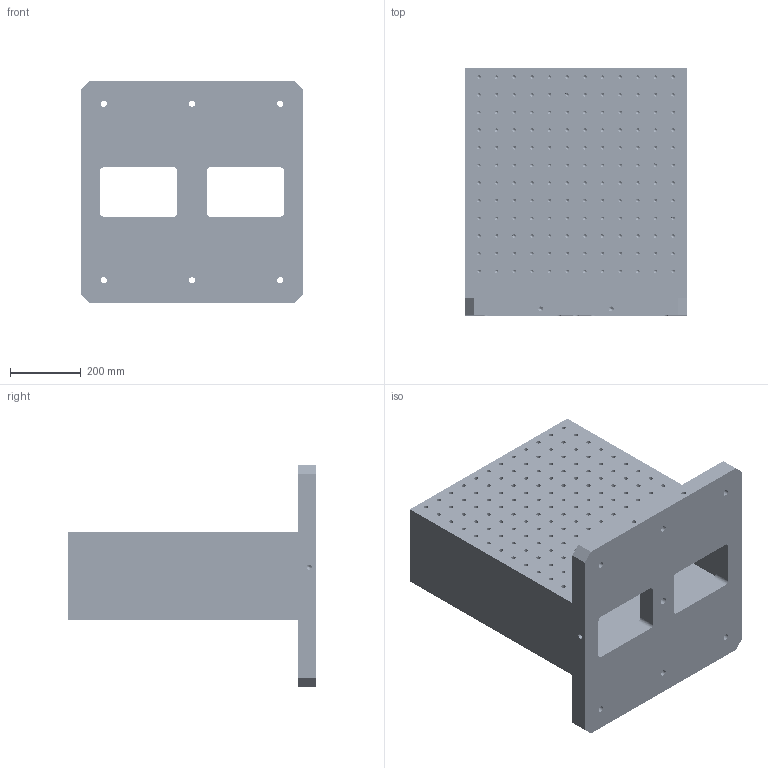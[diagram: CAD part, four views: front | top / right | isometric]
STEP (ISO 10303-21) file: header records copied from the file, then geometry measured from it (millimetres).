
FILE_DESCRIPTION((''),'2;1');
FILE_NAME('FG_WH_TOMB_RCGRDNP005','2026-05-20T15:53:50',('Admin'),(''),'CREO PARAMETRIC BY PTC INC, 2025010','CREO PARAMETRIC BY PTC INC, 2025010','');
FILE_SCHEMA(('CONFIG_CONTROL_DESIGN'));
Products named in the file (1): FG_WH_TOMB_RCGRDNP005
Bounding box: 630 x 700 x 630 mm (x, y, z)
Volume: 64206253 mm3; surface area: 3635445.7 mm2
Topology: 1 solids, 293 shells, 3012 faces, 7262 edges, 4551 vertices
Faces by surface type: cylinder 1794, plane 636, cone 582
Entity records: 85115 total; most frequent: DIRECTION 16878, CARTESIAN_POINT 14244, ORIENTED_EDGE 12192, AXIS2_PLACEMENT_3D 7185, EDGE_CURVE 6680, VERTEX_POINT 4551, CIRCLE 4172, EDGE_LOOP 3915
